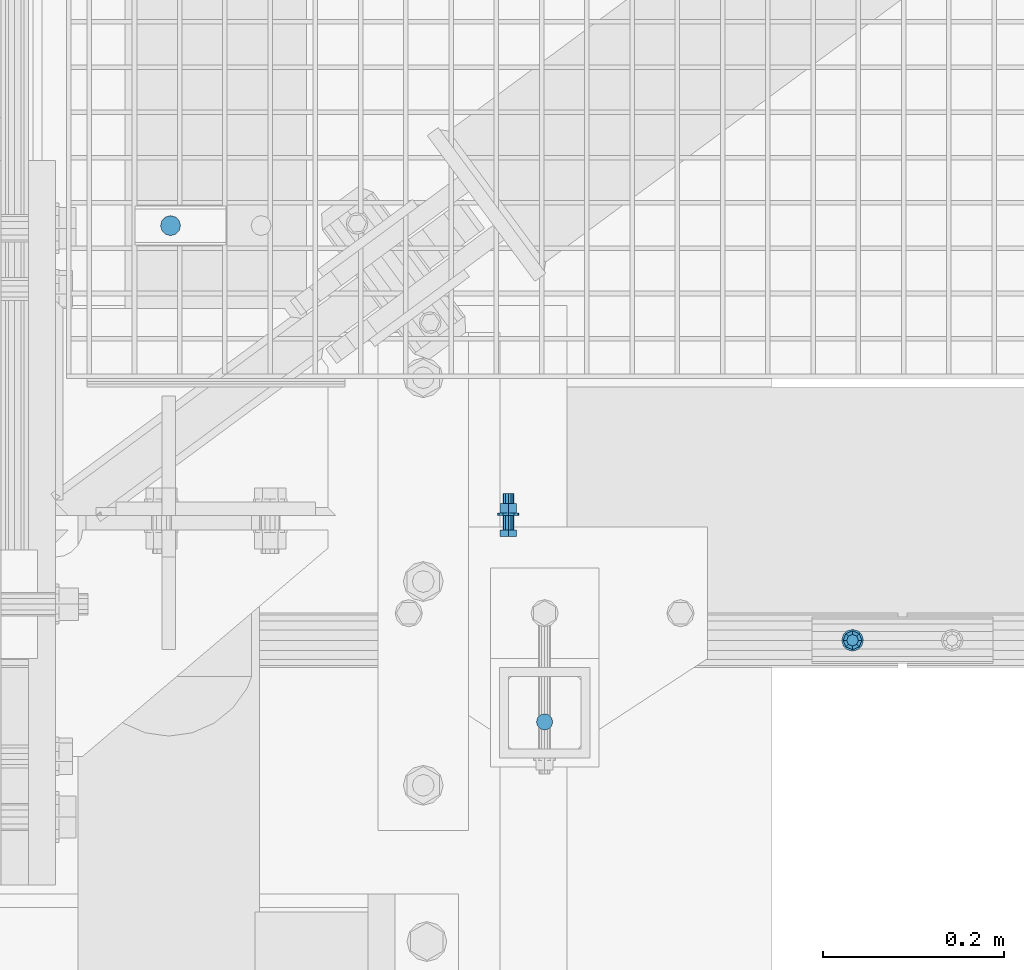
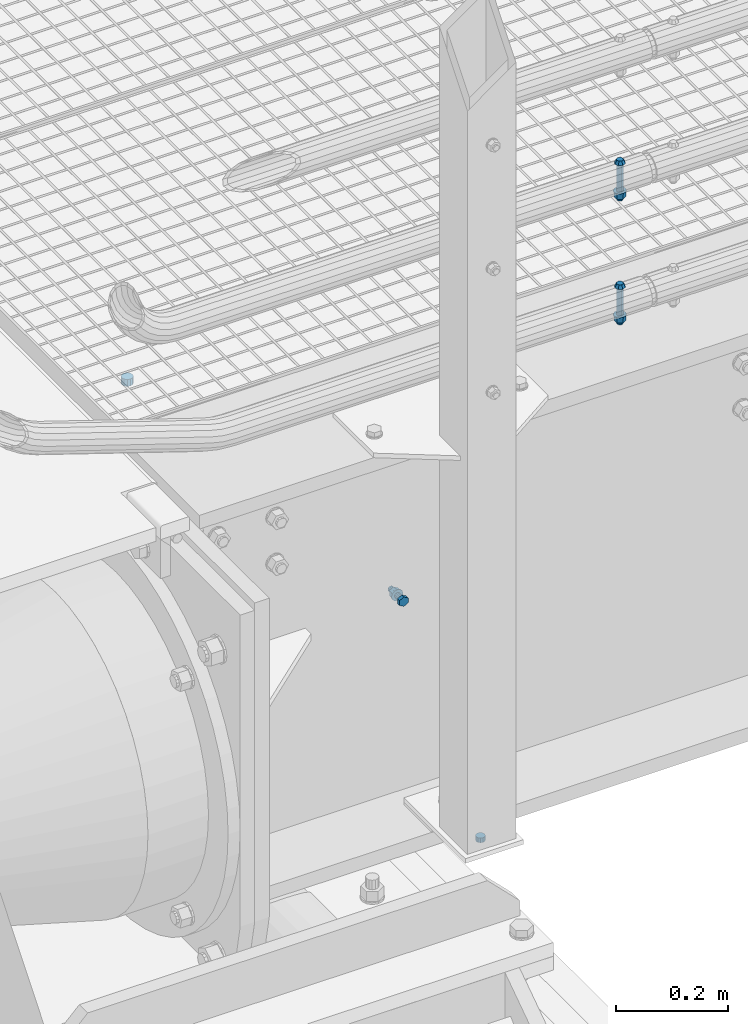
# One storey, part 60 of 1530: 5 mechanical fasteners.
"""IFC2X3 building model written with IfcOpenShell, lengths in millimetres."""

from ifc_helpers import new_model, si_unit, frame, origin_with_axes, place, context, subcontext, project, spatial, faceted_brep, source, transform, mapped, material, type_object, element, save


model = new_model("IFC2X3")

# Units and contexts
model_context = context("Model", 3, precision=1e-05, world=origin_with_axes())
body_context = subcontext(model_context, "Body", "Model", "MODEL_VIEW")
ifc_project = project(units=[si_unit("LENGTHUNIT", "METRE", prefix="MILLI"), si_unit("AREAUNIT", "SQUARE_METRE"), si_unit("VOLUMEUNIT", "CUBIC_METRE"), si_unit("MASSUNIT", "GRAM", prefix="KILO"), si_unit("TIMEUNIT", "SECOND"), si_unit("PLANEANGLEUNIT", "RADIAN"), si_unit("SOLIDANGLEUNIT", "STERADIAN"), si_unit("THERMODYNAMICTEMPERATUREUNIT", "DEGREE_CELSIUS"), si_unit("LUMINOUSINTENSITYUNIT", "LUMEN")], contexts=[model_context])

# Site, building, storey
site_placement = place(None, origin_with_axes())
site = spatial("IfcSite", under=ifc_project, at=site_placement, Name="Brattvåg", CompositionType="ELEMENT")
building_placement = place(site_placement, origin_with_axes())
building = spatial("IfcBuilding", under=site, at=building_placement, Name="Undefined", CompositionType="ELEMENT")
storey_placement = place(building_placement, origin_with_axes())
storey = spatial("IfcBuildingStorey", under=building, at=storey_placement, Name="Undefined", CompositionType="ELEMENT", Elevation=0.0)

# Mechanical fasteners
ifc_material = material(Name="8")
mechanical_fastener_type = type_object("IfcMechanicalFastenerType", Name="Bolt assembly")
shared_shape_1 = source(origin_with_axes(), body_context, "Body", "Brep", [
    faceted_brep([(10.3923048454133, -7.49999965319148, 0.0), (5.19615242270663, -7.49999965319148, 9.0), (-5.19615242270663, -7.49999965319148, 9.0), (-10.3923048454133, -7.49999965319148, 1.27269028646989e-15), (-5.19615242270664, -7.49999965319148, -9.0), (5.19615242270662, -7.49999965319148, -9.0), (5.19615242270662, 3.46808519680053e-07, -9.0), (-5.19615242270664, 3.46808519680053e-07, -9.0), (-10.3923048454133, 3.46808519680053e-07, 1.27269028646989e-15), (-5.19615242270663, 3.46808519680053e-07, 9.0), (5.19615242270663, 3.46808519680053e-07, 9.0), (10.3923048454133, 3.46808519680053e-07, 0.0), (6.0, 3.46808519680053e-07, 0.0), (5.19615242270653, 3.46808519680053e-07, 3.00000000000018), (2.99999999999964, 3.46808519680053e-07, 5.19615242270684), (-6.21801588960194e-13, 3.46808519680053e-07, 6.0), (-3.00000000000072, 3.46808519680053e-07, 5.19615242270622), (-5.19615242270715, 3.46808519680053e-07, 2.9999999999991), (-6.0, 3.46808519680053e-07, -1.24360317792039e-12), (-5.19615242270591, 3.46808519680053e-07, -3.00000000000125), (-2.99999999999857, 3.46808519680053e-07, -5.19615242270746), (1.85874342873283e-12, 3.46808519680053e-07, -6.0), (3.00000000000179, 3.46808519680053e-07, -5.1961524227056), (5.19615242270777, 3.46808519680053e-07, -2.99999999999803), (5.19615242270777, 40.0000003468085, -2.99999999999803), (3.00000000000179, 40.0000003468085, -5.1961524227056), (1.85874342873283e-12, 40.0000003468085, -6.0), (-2.99999999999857, 40.0000003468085, -5.19615242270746), (-5.19615242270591, 40.0000003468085, -3.00000000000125), (-6.0, 40.0000003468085, -1.24360317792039e-12), (-5.19615242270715, 40.0000003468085, 2.9999999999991), (-3.00000000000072, 40.0000003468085, 5.19615242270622), (-6.21801588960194e-13, 40.0000003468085, 6.0), (2.99999999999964, 40.0000003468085, 5.19615242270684), (5.19615242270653, 40.0000003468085, 3.00000000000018), (6.0, 40.0000003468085, 0.0), (12.0, 16.0000003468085, 0.0), (10.3923048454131, 16.0000003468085, 6.00000000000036), (5.99999999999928, 16.0000003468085, 10.3923048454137), (-1.24360317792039e-12, 16.0000003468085, 12.0), (-6.00000000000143, 16.0000003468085, 10.3923048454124), (-10.3923048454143, 16.0000003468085, 5.99999999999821), (-12.0, 16.0000003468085, -2.48720635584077e-12), (-10.3923048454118, 16.0000003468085, -6.00000000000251), (-5.99999999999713, 16.0000003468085, -10.3923048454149), (3.71748685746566e-12, 16.0000003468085, -12.0), (6.00000000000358, 16.0000003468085, -10.3923048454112), (10.3923048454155, 16.0000003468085, -5.99999999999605), (10.3923048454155, 18.5000003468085, -5.99999999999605), (6.00000000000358, 18.5000003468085, -10.3923048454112), (3.71748685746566e-12, 18.5000003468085, -12.0), (-5.99999999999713, 18.5000003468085, -10.3923048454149), (-10.3923048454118, 18.5000003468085, -6.00000000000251), (-12.0, 18.5000003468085, -2.48720635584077e-12), (-10.3923048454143, 18.5000003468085, 5.99999999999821), (-6.00000000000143, 18.5000003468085, 10.3923048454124), (-1.24360317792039e-12, 18.5000003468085, 12.0), (5.99999999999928, 18.5000003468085, 10.3923048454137), (10.3923048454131, 18.5000003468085, 6.00000000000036), (12.0, 18.5000003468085, 0.0), (10.3923048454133, 18.5000003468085, 0.0), (5.19615242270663, 18.5000003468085, 9.0), (-5.19615242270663, 18.5000003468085, 9.0), (-10.3923048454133, 18.5000003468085, 1.27269028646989e-15), (-5.19615242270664, 18.5000003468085, -9.0), (5.19615242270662, 18.5000003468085, -9.0), (5.19615242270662, 29.3000005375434, -9.0), (-5.19615242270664, 29.3000005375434, -9.0), (-10.3923048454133, 29.3000005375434, 1.27269028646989e-15), (-5.19615242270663, 29.3000005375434, 9.0), (5.19615242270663, 29.3000005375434, 9.0), (10.3923048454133, 29.3000005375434, 0.0)], [[[0, 1, 2, 3, 4, 5]], [[6, 7, 8, 9, 10, 11]], [[0, 11, 10, 1]], [[1, 10, 9, 2]], [[2, 9, 8, 3]], [[3, 8, 7, 4]], [[4, 7, 6, 5]], [[5, 6, 11, 0]], [[12, 13, 14, 15, 16, 17, 18, 19, 20, 21, 22, 23]], [[24, 25, 26, 27, 28, 29, 30, 31, 32, 33, 34, 35]], [[12, 35, 34, 13]], [[13, 34, 33, 14]], [[14, 33, 32, 15]], [[15, 32, 31, 16]], [[16, 31, 30, 17]], [[17, 30, 29, 18]], [[18, 29, 28, 19]], [[19, 28, 27, 20]], [[20, 27, 26, 21]], [[21, 26, 25, 22]], [[22, 25, 24, 23]], [[23, 24, 35, 12]], [[36, 37, 38, 39, 40, 41, 42, 43, 44, 45, 46, 47]], [[48, 49, 50, 51, 52, 53, 54, 55, 56, 57, 58, 59]], [[36, 59, 58, 37]], [[37, 58, 57, 38]], [[38, 57, 56, 39]], [[39, 56, 55, 40]], [[40, 55, 54, 41]], [[41, 54, 53, 42]], [[42, 53, 52, 43]], [[43, 52, 51, 44]], [[44, 51, 50, 45]], [[45, 50, 49, 46]], [[46, 49, 48, 47]], [[47, 48, 59, 36]], [[60, 61, 62, 63, 64, 65]], [[66, 67, 68, 69, 70, 71]], [[60, 71, 70, 61]], [[61, 70, 69, 62]], [[62, 69, 68, 63]], [[63, 68, 67, 64]], [[64, 67, 66, 65]], [[65, 66, 71, 60]]]),
    faceted_brep([(6.0, 3.46808519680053e-07, 0.0), (5.19615242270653, 3.46808519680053e-07, 3.00000000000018), (2.99999999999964, 3.46808519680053e-07, 5.19615242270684), (-6.21801588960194e-13, 3.46808519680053e-07, 6.0), (-3.00000000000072, 3.46808519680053e-07, 5.19615242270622), (-5.19615242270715, 3.46808519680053e-07, 2.9999999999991), (-6.0, 3.46808519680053e-07, -1.24360317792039e-12), (-5.19615242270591, 3.46808519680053e-07, -3.00000000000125), (-2.99999999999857, 3.46808519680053e-07, -5.19615242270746), (1.85874342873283e-12, 3.46808519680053e-07, -6.0), (3.00000000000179, 3.46808519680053e-07, -5.1961524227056), (5.19615242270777, 3.46808519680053e-07, -2.99999999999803), (5.19615242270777, 16.1000003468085, -2.99999999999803), (3.00000000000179, 16.1000003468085, -5.1961524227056), (1.85874342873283e-12, 16.1000003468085, -6.0), (-2.99999999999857, 16.1000003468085, -5.19615242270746), (-5.19615242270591, 16.1000003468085, -3.00000000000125), (-6.0, 16.1000003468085, -1.24360317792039e-12), (-5.19615242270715, 16.1000003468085, 2.9999999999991), (-3.00000000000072, 16.1000003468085, 5.19615242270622), (-6.21801588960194e-13, 16.1000003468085, 6.0), (2.99999999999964, 16.1000003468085, 5.19615242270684), (5.19615242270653, 16.1000003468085, 3.00000000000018), (6.0, 16.1000003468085, 0.0)], [[[0, 1, 2, 3, 4, 5, 6, 7, 8, 9, 10, 11]], [[12, 13, 14, 15, 16, 17, 18, 19, 20, 21, 22, 23]], [[0, 23, 22, 1]], [[1, 22, 21, 2]], [[2, 21, 20, 3]], [[3, 20, 19, 4]], [[4, 19, 18, 5]], [[5, 18, 17, 6]], [[6, 17, 16, 7]], [[7, 16, 15, 8]], [[8, 15, 14, 9]], [[9, 14, 13, 10]], [[10, 13, 12, 11]], [[11, 12, 23, 0]]]),
])
mechanical_fastener_1_placement = place(storey_placement, frame((510.0, -8.00000034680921, -445.0), z_axis=(-1.0, 1.99999855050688e-09, 0.0), x_axis=(0.0, 0.0, 1.0)))
element("IfcMechanicalFastener", 1, at=mechanical_fastener_1_placement, inside=storey, type_object=mechanical_fastener_type, material=ifc_material, Name="Bolt assembly", NominalDiameter=12.0, NominalLength=40.0, context=body_context, shape_type="MappedRepresentation", body=[
    mapped(shared_shape_1, transform((0.0, 0.0, 0.0))),
])
shared_shape_2 = source(origin_with_axes(), body_context, "Body", "Brep", [
    faceted_brep([(11.0, -4.99999999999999, 0.0), (9.52627944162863, -4.99999999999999, 5.50000000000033), (5.49999999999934, -4.99999999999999, 9.5262794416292), (-1.13996957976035e-12, -4.99999999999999, 11.0), (-5.50000000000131, -4.99999999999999, 9.52627944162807), (-9.52627944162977, -4.99999999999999, 5.49999999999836), (-11.0, -4.99999999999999, -2.27993915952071e-12), (-9.5262794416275, -4.99999999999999, -5.5000000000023), (-5.49999999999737, -4.99999999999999, -9.52627944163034), (3.40769628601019e-12, -4.99999999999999, -11.0), (5.50000000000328, -4.99999999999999, -9.52627944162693), (9.52627944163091, -4.99999999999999, -5.49999999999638), (9.52627944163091, 10.1, -5.49999999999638), (5.50000000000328, 10.1, -9.52627944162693), (3.40769628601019e-12, 10.1, -11.0), (-5.49999999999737, 10.1, -9.52627944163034), (-9.5262794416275, 10.1, -5.5000000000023), (-11.0, 10.1, -2.27993915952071e-12), (-9.52627944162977, 10.1, 5.49999999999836), (-5.50000000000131, 10.1, 9.52627944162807), (-1.13996957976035e-12, 10.1, 11.0), (5.49999999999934, 10.1, 9.5262794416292), (9.52627944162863, 10.1, 5.50000000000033), (11.0, 10.1, 0.0)], [[[0, 1, 2, 3, 4, 5, 6, 7, 8, 9, 10, 11]], [[12, 13, 14, 15, 16, 17, 18, 19, 20, 21, 22, 23]], [[0, 23, 22, 1]], [[1, 22, 21, 2]], [[2, 21, 20, 3]], [[3, 20, 19, 4]], [[4, 19, 18, 5]], [[5, 18, 17, 6]], [[6, 17, 16, 7]], [[7, 16, 15, 8]], [[8, 15, 14, 9]], [[9, 14, 13, 10]], [[10, 13, 12, 11]], [[11, 12, 23, 0]]]),
])
mechanical_fastener_2_placement = place(storey_placement, frame((137.004779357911, 327.919311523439, -35.0), z_axis=(0.0, 1.0, 0.0), x_axis=(1.0, 0.0, 0.0)))
element("IfcMechanicalFastener", 2, at=mechanical_fastener_2_placement, inside=storey, type_object=mechanical_fastener_type, material=ifc_material, Name="Bolt assembly", NominalDiameter=20.0, NominalLength=15.0, context=body_context, shape_type="MappedRepresentation", body=[
    mapped(shared_shape_2, transform((0.0, 0.0, 0.0))),
])
shared_shape_3 = source(origin_with_axes(), body_context, "Body", "Brep", [
    faceted_brep([(9.0, -0.000108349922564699, 0.0), (7.79422863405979, -0.000108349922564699, 4.50000000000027), (4.49999999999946, -0.000108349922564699, 7.79422863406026), (-9.3270238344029e-13, -0.000108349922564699, 9.0), (-4.50000000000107, -0.000108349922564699, 7.79422863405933), (-7.79422863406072, -0.000108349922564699, 4.49999999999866), (-9.0, -0.000108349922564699, -1.86540476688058e-12), (-7.79422863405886, -0.000108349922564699, -4.50000000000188), (-4.49999999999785, -0.000108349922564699, -7.79422863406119), (2.78811514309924e-12, -0.000108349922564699, -9.0), (4.50000000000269, -0.000108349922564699, -7.7942286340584), (7.79422863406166, -0.000108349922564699, -4.49999999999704), (7.79422863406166, 10.0998916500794, -4.49999999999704), (4.50000000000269, 10.0998916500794, -7.7942286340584), (2.78811514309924e-12, 10.0998916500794, -9.0), (-4.49999999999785, 10.0998916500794, -7.79422863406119), (-7.79422863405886, 10.0998916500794, -4.50000000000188), (-9.0, 10.0998916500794, -1.86540476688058e-12), (-7.79422863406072, 10.0998916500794, 4.49999999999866), (-4.50000000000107, 10.0998916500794, 7.79422863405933), (-9.3270238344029e-13, 10.0998916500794, 9.0), (4.49999999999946, 10.0998916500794, 7.79422863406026), (7.79422863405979, 10.0998916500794, 4.50000000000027), (9.0, 10.0998916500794, 0.0)], [[[0, 1, 2, 3, 4, 5, 6, 7, 8, 9, 10, 11]], [[12, 13, 14, 15, 16, 17, 18, 19, 20, 21, 22, 23]], [[0, 23, 22, 1]], [[1, 22, 21, 2]], [[2, 21, 20, 3]], [[3, 20, 19, 4]], [[4, 19, 18, 5]], [[5, 18, 17, 6]], [[6, 17, 16, 7]], [[7, 16, 15, 8]], [[8, 15, 14, 9]], [[9, 14, 13, 10]], [[10, 13, 12, 11]], [[11, 12, 23, 0]]]),
])
mechanical_fastener_3_placement = place(storey_placement, frame((550.000160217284, -219.999950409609, -845.0002784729), z_axis=(-1.0, 1.99999855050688e-09, 0.0), x_axis=(0.0, 0.999999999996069, 2.80400000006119e-06)))
element("IfcMechanicalFastener", 3, at=mechanical_fastener_3_placement, inside=storey, type_object=mechanical_fastener_type, material=ifc_material, Name="Bolt assembly", NominalDiameter=16.0, NominalLength=10.0001087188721, context=body_context, shape_type="MappedRepresentation", body=[
    mapped(shared_shape_3, transform((0.0, 0.0, 0.0))),
])
shared_shape_4 = source(origin_with_axes(), body_context, "Body", "Brep", [
    faceted_brep([(6.49435320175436, -7.79994685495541, 0.0), (4.59220118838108, -7.79994685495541, 4.59220118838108), (3.97664443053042e-16, -7.79994685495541, 6.49435320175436), (-4.59220118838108, -7.79994685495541, 4.59220118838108), (-6.49435320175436, -7.79994685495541, 7.95328886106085e-16), (-4.59220118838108, -7.79994685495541, -4.59220118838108), (-1.19299332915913e-15, -7.79994685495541, -6.49435320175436), (4.59220118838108, -7.79994685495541, -4.59220118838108), (7.34846922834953, -0.299946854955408, -7.34846922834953), (-1.90903542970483e-15, -0.299946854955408, -10.3923048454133), (-7.34846922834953, -0.299946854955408, -7.34846922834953), (-10.3923048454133, -0.299946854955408, 1.27269028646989e-15), (-7.34846922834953, -0.299946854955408, 7.34846922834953), (6.36345143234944e-16, -0.299946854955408, 10.3923048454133), (7.34846922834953, -0.299946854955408, 7.34846922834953), (10.3923048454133, -0.299946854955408, 0.0), (6.0, -0.299946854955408, 0.0), (5.19615242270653, -0.299946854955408, 3.00000000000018), (2.99999999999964, -0.299946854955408, 5.19615242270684), (-6.21801588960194e-13, -0.299946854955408, 6.0), (-3.00000000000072, -0.299946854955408, 5.19615242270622), (-5.19615242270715, -0.299946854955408, 2.9999999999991), (-6.0, -0.299946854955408, -1.24360317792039e-12), (-5.19615242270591, -0.299946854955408, -3.00000000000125), (-2.99999999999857, -0.299946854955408, -5.19615242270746), (1.85874342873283e-12, -0.299946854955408, -6.0), (3.00000000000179, -0.299946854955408, -5.1961524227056), (5.19615242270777, -0.299946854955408, -2.99999999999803), (5.19615242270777, 79.7000531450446, -2.99999999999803), (3.00000000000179, 79.7000531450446, -5.1961524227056), (1.85874342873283e-12, 79.7000531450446, -6.0), (-2.99999999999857, 79.7000531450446, -5.19615242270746), (-5.19615242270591, 79.7000531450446, -3.00000000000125), (-6.0, 79.7000531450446, -1.24360317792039e-12), (-5.19615242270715, 79.7000531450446, 2.9999999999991), (-3.00000000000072, 79.7000531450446, 5.19615242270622), (-6.21801588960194e-13, 79.7000531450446, 6.0), (2.99999999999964, 79.7000531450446, 5.19615242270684), (5.19615242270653, 79.7000531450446, 3.00000000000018), (6.0, 79.7000531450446, 0.0), (12.0, 59.9989488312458, 0.0), (10.3923048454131, 59.9989488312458, 6.00000000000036), (5.99999999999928, 59.9989488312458, 10.3923048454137), (-1.24360317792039e-12, 59.9989488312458, 12.0), (-6.00000000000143, 59.9989488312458, 10.3923048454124), (-10.3923048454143, 59.9989488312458, 5.99999999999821), (-12.0, 59.9989488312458, -2.48720635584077e-12), (-10.3923048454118, 59.9989488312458, -6.00000000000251), (-5.99999999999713, 59.9989488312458, -10.3923048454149), (3.71748685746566e-12, 59.9989488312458, -12.0), (6.00000000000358, 59.9989488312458, -10.3923048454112), (10.3923048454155, 59.9989488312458, -5.99999999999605), (10.3923048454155, 62.4989488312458, -5.99999999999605), (6.00000000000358, 62.4989488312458, -10.3923048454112), (3.71748685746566e-12, 62.4989488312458, -12.0), (-5.99999999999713, 62.4989488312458, -10.3923048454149), (-10.3923048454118, 62.4989488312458, -6.00000000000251), (-12.0, 62.4989488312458, -2.48720635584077e-12), (-10.3923048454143, 62.4989488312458, 5.99999999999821), (-6.00000000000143, 62.4989488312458, 10.3923048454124), (-1.24360317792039e-12, 62.4989488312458, 12.0), (5.99999999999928, 62.4989488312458, 10.3923048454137), (10.3923048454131, 62.4989488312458, 6.00000000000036), (12.0, 62.4989488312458, 0.0), (10.9696551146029, 62.4989488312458, 0.0), (5.48482755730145, 62.4989488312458, 9.5), (-5.48482755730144, 62.4989488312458, 9.5), (-10.9696551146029, 62.4989488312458, 1.34339530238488e-15), (-5.48482755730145, 62.4989488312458, -9.5), (5.48482755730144, 62.4989488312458, -9.5), (5.48482755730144, 73.2989490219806, -9.5), (-5.48482755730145, 73.2989490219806, -9.5), (-10.9696551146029, 73.2989490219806, 1.34339530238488e-15), (-5.48482755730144, 73.2989490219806, 9.5), (5.48482755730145, 73.2989490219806, 9.5), (10.9696551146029, 73.2989490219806, 0.0)], [[[0, 1, 2, 3, 4, 5, 6, 7]], [[8, 9, 10, 11, 12, 13, 14, 15]], [[0, 15, 14, 1]], [[1, 14, 13, 2]], [[2, 13, 12, 3]], [[3, 12, 11, 4]], [[4, 11, 10, 5]], [[5, 10, 9, 6]], [[6, 9, 8, 7]], [[7, 8, 15, 0]], [[16, 17, 18, 19, 20, 21, 22, 23, 24, 25, 26, 27]], [[28, 29, 30, 31, 32, 33, 34, 35, 36, 37, 38, 39]], [[16, 39, 38, 17]], [[17, 38, 37, 18]], [[18, 37, 36, 19]], [[19, 36, 35, 20]], [[20, 35, 34, 21]], [[21, 34, 33, 22]], [[22, 33, 32, 23]], [[23, 32, 31, 24]], [[24, 31, 30, 25]], [[25, 30, 29, 26]], [[26, 29, 28, 27]], [[27, 28, 39, 16]], [[40, 41, 42, 43, 44, 45, 46, 47, 48, 49, 50, 51]], [[52, 53, 54, 55, 56, 57, 58, 59, 60, 61, 62, 63]], [[40, 63, 62, 41]], [[41, 62, 61, 42]], [[42, 61, 60, 43]], [[43, 60, 59, 44]], [[44, 59, 58, 45]], [[45, 58, 57, 46]], [[46, 57, 56, 47]], [[47, 56, 55, 48]], [[48, 55, 54, 49]], [[49, 54, 53, 50]], [[50, 53, 52, 51]], [[51, 52, 63, 40]], [[64, 65, 66, 67, 68, 69]], [[70, 71, 72, 73, 74, 75]], [[64, 75, 74, 65]], [[65, 74, 73, 66]], [[66, 73, 72, 67]], [[67, 72, 71, 68]], [[68, 71, 70, 69]], [[69, 70, 75, 64]]]),
    faceted_brep([(6.5, -0.199946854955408, 0.0), (5.62916512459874, -0.199946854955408, 3.25000000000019), (3.24999999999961, -0.199946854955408, 5.62916512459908), (-6.7361838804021e-13, -0.199946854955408, 6.5), (-3.25000000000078, -0.199946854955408, 5.6291651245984), (-5.62916512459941, -0.199946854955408, 3.24999999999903), (-6.5, -0.199946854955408, -1.34723677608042e-12), (-5.62916512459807, -0.199946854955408, -3.25000000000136), (-3.24999999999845, -0.199946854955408, -5.62916512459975), (2.01363871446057e-12, -0.199946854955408, -6.5), (3.25000000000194, -0.199946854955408, -5.62916512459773), (5.62916512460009, -0.199946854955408, -3.24999999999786), (5.62916512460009, 60.0989488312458, -3.24999999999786), (3.25000000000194, 60.0989488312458, -5.62916512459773), (2.01363871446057e-12, 60.0989488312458, -6.5), (-3.24999999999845, 60.0989488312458, -5.62916512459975), (-5.62916512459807, 60.0989488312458, -3.25000000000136), (-6.5, 60.0989488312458, -1.34723677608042e-12), (-5.62916512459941, 60.0989488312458, 3.24999999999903), (-3.25000000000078, 60.0989488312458, 5.6291651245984), (-6.7361838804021e-13, 60.0989488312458, 6.5), (3.24999999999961, 60.0989488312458, 5.62916512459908), (5.62916512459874, 60.0989488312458, 3.25000000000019), (6.5, 60.0989488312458, 0.0), (6.5, 4.25026510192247, 0.0), (5.62916512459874, 4.25026510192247, 3.25000000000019), (3.24999999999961, 4.25026510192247, 5.62916512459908), (-6.7361838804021e-13, 4.25026510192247, 6.5), (-3.25000000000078, 4.25026510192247, 5.6291651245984), (-5.62916512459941, 4.25026510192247, 3.24999999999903), (-6.5, 4.25026510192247, -1.34723677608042e-12), (-5.62916512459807, 4.25026510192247, -3.25000000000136), (-3.24999999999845, 4.25026510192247, -5.62916512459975), (2.01363871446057e-12, 4.25026510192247, -6.5), (3.25000000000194, 4.25026510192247, -5.62916512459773), (5.62916512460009, 4.25026510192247, -3.24999999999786), (5.62916512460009, 55.3491717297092, -3.24999999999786), (3.25000000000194, 55.3491717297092, -5.62916512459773), (2.01363871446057e-12, 55.3491717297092, -6.5), (-3.24999999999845, 55.3491717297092, -5.62916512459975), (-5.62916512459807, 55.3491717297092, -3.25000000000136), (-6.5, 55.3491717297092, -1.34723677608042e-12), (-5.62916512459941, 55.3491717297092, 3.24999999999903), (-3.25000000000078, 55.3491717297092, 5.6291651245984), (-6.7361838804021e-13, 55.3491717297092, 6.5), (3.24999999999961, 55.3491717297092, 5.62916512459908), (5.62916512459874, 55.3491717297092, 3.25000000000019), (6.5, 55.3491717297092, 0.0)], [[[0, 1, 2, 3, 4, 5, 6, 7, 8, 9, 10, 11]], [[12, 13, 14, 15, 16, 17, 18, 19, 20, 21, 22, 23]], [[0, 23, 22, 1]], [[1, 22, 21, 2]], [[2, 21, 20, 3]], [[3, 20, 19, 4]], [[4, 19, 18, 5]], [[5, 18, 17, 6]], [[6, 17, 16, 7]], [[7, 16, 15, 8]], [[8, 15, 14, 9]], [[9, 14, 13, 10]], [[10, 13, 12, 11]], [[11, 12, 23, 0]], [[24, 25, 26, 27, 28, 29, 30, 31, 32, 33, 34, 35]], [[36, 37, 38, 39, 40, 41, 42, 43, 44, 45, 46, 47]], [[24, 47, 46, 25]], [[25, 46, 45, 26]], [[26, 45, 44, 27]], [[27, 44, 43, 28]], [[28, 43, 42, 29]], [[29, 42, 41, 30]], [[30, 41, 40, 31]], [[31, 40, 39, 32]], [[32, 39, 38, 33]], [[33, 38, 37, 34]], [[34, 37, 36, 35]], [[35, 36, 47, 24]]]),
])
mechanical_fastener_4_placement = place(storey_placement, frame((890.000137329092, -129.849880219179, 449.7000579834), z_axis=(-1.0, 1.99999855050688e-09, 0.0), x_axis=(0.0, 0.999999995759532, -9.2091999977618e-05)))
element("IfcMechanicalFastener", 4, at=mechanical_fastener_4_placement, inside=storey, type_object=mechanical_fastener_type, material=ifc_material, Name="Bolt assembly", NominalDiameter=12.0, NominalLength=80.0, context=body_context, shape_type="MappedRepresentation", body=[
    mapped(shared_shape_4, transform((0.0, 0.0, 0.0))),
])
shared_shape_5 = source(origin_with_axes(), body_context, "Body", "Brep", [
    faceted_brep([(6.49435320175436, -7.49993057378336, 0.0), (4.59220118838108, -7.49993057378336, 4.59220118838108), (3.97664443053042e-16, -7.49993057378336, 6.49435320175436), (-4.59220118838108, -7.49993057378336, 4.59220118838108), (-6.49435320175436, -7.49993057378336, 7.95328886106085e-16), (-4.59220118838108, -7.49993057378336, -4.59220118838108), (-1.19299332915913e-15, -7.49993057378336, -6.49435320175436), (4.59220118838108, -7.49993057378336, -4.59220118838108), (7.34846922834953, 6.94262166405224e-05, -7.34846922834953), (-1.90903542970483e-15, 6.94262166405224e-05, -10.3923048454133), (-7.34846922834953, 6.94262166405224e-05, -7.34846922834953), (-10.3923048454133, 6.94262166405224e-05, 1.27269028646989e-15), (-7.34846922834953, 6.94262166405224e-05, 7.34846922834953), (6.36345143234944e-16, 6.94262166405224e-05, 10.3923048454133), (7.34846922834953, 6.94262166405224e-05, 7.34846922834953), (10.3923048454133, 6.94262166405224e-05, 0.0), (6.0, 6.94262166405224e-05, 0.0), (5.19615242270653, 6.94262166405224e-05, 3.00000000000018), (2.99999999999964, 6.94262166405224e-05, 5.19615242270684), (-6.21801588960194e-13, 6.94262166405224e-05, 6.0), (-3.00000000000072, 6.94262166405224e-05, 5.19615242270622), (-5.19615242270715, 6.94262166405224e-05, 2.9999999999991), (-6.0, 6.94262166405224e-05, -1.24360317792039e-12), (-5.19615242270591, 6.94262166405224e-05, -3.00000000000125), (-2.99999999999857, 6.94262166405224e-05, -5.19615242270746), (1.85874342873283e-12, 6.94262166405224e-05, -6.0), (3.00000000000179, 6.94262166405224e-05, -5.1961524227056), (5.19615242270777, 6.94262166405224e-05, -2.99999999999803), (5.19615242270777, 80.0000694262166, -2.99999999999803), (3.00000000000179, 80.0000694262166, -5.1961524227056), (1.85874342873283e-12, 80.0000694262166, -6.0), (-2.99999999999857, 80.0000694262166, -5.19615242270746), (-5.19615242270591, 80.0000694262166, -3.00000000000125), (-6.0, 80.0000694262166, -1.24360317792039e-12), (-5.19615242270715, 80.0000694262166, 2.9999999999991), (-3.00000000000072, 80.0000694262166, 5.19615242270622), (-6.21801588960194e-13, 80.0000694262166, 6.0), (2.99999999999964, 80.0000694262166, 5.19615242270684), (5.19615242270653, 80.0000694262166, 3.00000000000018), (6.0, 80.0000694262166, 0.0), (12.0, 60.2989651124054, 0.0), (10.3923048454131, 60.2989651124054, 6.00000000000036), (5.99999999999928, 60.2989651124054, 10.3923048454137), (-1.24360317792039e-12, 60.2989651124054, 12.0), (-6.00000000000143, 60.2989651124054, 10.3923048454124), (-10.3923048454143, 60.2989651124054, 5.99999999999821), (-12.0, 60.2989651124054, -2.48720635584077e-12), (-10.3923048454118, 60.2989651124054, -6.00000000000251), (-5.99999999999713, 60.2989651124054, -10.3923048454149), (3.71748685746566e-12, 60.2989651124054, -12.0), (6.00000000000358, 60.2989651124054, -10.3923048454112), (10.3923048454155, 60.2989651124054, -5.99999999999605), (10.3923048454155, 62.7989651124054, -5.99999999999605), (6.00000000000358, 62.7989651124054, -10.3923048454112), (3.71748685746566e-12, 62.7989651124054, -12.0), (-5.99999999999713, 62.7989651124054, -10.3923048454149), (-10.3923048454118, 62.7989651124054, -6.00000000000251), (-12.0, 62.7989651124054, -2.48720635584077e-12), (-10.3923048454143, 62.7989651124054, 5.99999999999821), (-6.00000000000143, 62.7989651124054, 10.3923048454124), (-1.24360317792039e-12, 62.7989651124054, 12.0), (5.99999999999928, 62.7989651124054, 10.3923048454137), (10.3923048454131, 62.7989651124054, 6.00000000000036), (12.0, 62.7989651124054, 0.0), (10.9696551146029, 62.7989651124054, 0.0), (5.48482755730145, 62.7989651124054, 9.5), (-5.48482755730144, 62.7989651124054, 9.5), (-10.9696551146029, 62.7989651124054, 1.34339530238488e-15), (-5.48482755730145, 62.7989651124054, -9.5), (5.48482755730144, 62.7989651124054, -9.5), (5.48482755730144, 73.5989653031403, -9.5), (-5.48482755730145, 73.5989653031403, -9.5), (-10.9696551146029, 73.5989653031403, 1.34339530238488e-15), (-5.48482755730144, 73.5989653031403, 9.5), (5.48482755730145, 73.5989653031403, 9.5), (10.9696551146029, 73.5989653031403, 0.0)], [[[0, 1, 2, 3, 4, 5, 6, 7]], [[8, 9, 10, 11, 12, 13, 14, 15]], [[0, 15, 14, 1]], [[1, 14, 13, 2]], [[2, 13, 12, 3]], [[3, 12, 11, 4]], [[4, 11, 10, 5]], [[5, 10, 9, 6]], [[6, 9, 8, 7]], [[7, 8, 15, 0]], [[16, 17, 18, 19, 20, 21, 22, 23, 24, 25, 26, 27]], [[28, 29, 30, 31, 32, 33, 34, 35, 36, 37, 38, 39]], [[16, 39, 38, 17]], [[17, 38, 37, 18]], [[18, 37, 36, 19]], [[19, 36, 35, 20]], [[20, 35, 34, 21]], [[21, 34, 33, 22]], [[22, 33, 32, 23]], [[23, 32, 31, 24]], [[24, 31, 30, 25]], [[25, 30, 29, 26]], [[26, 29, 28, 27]], [[27, 28, 39, 16]], [[40, 41, 42, 43, 44, 45, 46, 47, 48, 49, 50, 51]], [[52, 53, 54, 55, 56, 57, 58, 59, 60, 61, 62, 63]], [[40, 63, 62, 41]], [[41, 62, 61, 42]], [[42, 61, 60, 43]], [[43, 60, 59, 44]], [[44, 59, 58, 45]], [[45, 58, 57, 46]], [[46, 57, 56, 47]], [[47, 56, 55, 48]], [[48, 55, 54, 49]], [[49, 54, 53, 50]], [[50, 53, 52, 51]], [[51, 52, 63, 40]], [[64, 65, 66, 67, 68, 69]], [[70, 71, 72, 73, 74, 75]], [[64, 75, 74, 65]], [[65, 74, 73, 66]], [[66, 73, 72, 67]], [[67, 72, 71, 68]], [[68, 71, 70, 69]], [[69, 70, 75, 64]]]),
    faceted_brep([(6.5, 0.100069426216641, 0.0), (5.62916512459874, 0.100069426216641, 3.25000000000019), (3.24999999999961, 0.100069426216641, 5.62916512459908), (-6.7361838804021e-13, 0.100069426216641, 6.5), (-3.25000000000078, 0.100069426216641, 5.6291651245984), (-5.62916512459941, 0.100069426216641, 3.24999999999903), (-6.5, 0.100069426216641, -1.34723677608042e-12), (-5.62916512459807, 0.100069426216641, -3.25000000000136), (-3.24999999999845, 0.100069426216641, -5.62916512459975), (2.01363871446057e-12, 0.100069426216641, -6.5), (3.25000000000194, 0.100069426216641, -5.62916512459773), (5.62916512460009, 0.100069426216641, -3.24999999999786), (5.62916512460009, 60.3989651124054, -3.24999999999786), (3.25000000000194, 60.3989651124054, -5.62916512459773), (2.01363871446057e-12, 60.3989651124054, -6.5), (-3.24999999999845, 60.3989651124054, -5.62916512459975), (-5.62916512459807, 60.3989651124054, -3.25000000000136), (-6.5, 60.3989651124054, -1.34723677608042e-12), (-5.62916512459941, 60.3989651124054, 3.24999999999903), (-3.25000000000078, 60.3989651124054, 5.6291651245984), (-6.7361838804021e-13, 60.3989651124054, 6.5), (3.24999999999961, 60.3989651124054, 5.62916512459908), (5.62916512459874, 60.3989651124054, 3.25000000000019), (6.5, 60.3989651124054, 0.0), (6.5, 4.25026510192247, 0.0), (5.62916512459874, 4.25026510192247, 3.25000000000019), (3.24999999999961, 4.25026510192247, 5.62916512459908), (-6.7361838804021e-13, 4.25026510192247, 6.5), (-3.25000000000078, 4.25026510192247, 5.6291651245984), (-5.62916512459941, 4.25026510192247, 3.24999999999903), (-6.5, 4.25026510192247, -1.34723677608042e-12), (-5.62916512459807, 4.25026510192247, -3.25000000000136), (-3.24999999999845, 4.25026510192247, -5.62916512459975), (2.01363871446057e-12, 4.25026510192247, -6.5), (3.25000000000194, 4.25026510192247, -5.62916512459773), (5.62916512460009, 4.25026510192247, -3.24999999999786), (5.62916512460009, 55.3491717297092, -3.24999999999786), (3.25000000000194, 55.3491717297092, -5.62916512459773), (2.01363871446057e-12, 55.3491717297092, -6.5), (-3.24999999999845, 55.3491717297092, -5.62916512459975), (-5.62916512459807, 55.3491717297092, -3.25000000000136), (-6.5, 55.3491717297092, -1.34723677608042e-12), (-5.62916512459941, 55.3491717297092, 3.24999999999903), (-3.25000000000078, 55.3491717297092, 5.6291651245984), (-6.7361838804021e-13, 55.3491717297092, 6.5), (3.24999999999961, 55.3491717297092, 5.62916512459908), (5.62916512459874, 55.3491717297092, 3.25000000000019), (6.5, 55.3491717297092, 0.0)], [[[0, 1, 2, 3, 4, 5, 6, 7, 8, 9, 10, 11]], [[12, 13, 14, 15, 16, 17, 18, 19, 20, 21, 22, 23]], [[0, 23, 22, 1]], [[1, 22, 21, 2]], [[2, 21, 20, 3]], [[3, 20, 19, 4]], [[4, 19, 18, 5]], [[5, 18, 17, 6]], [[6, 17, 16, 7]], [[7, 16, 15, 8]], [[8, 15, 14, 9]], [[9, 14, 13, 10]], [[10, 13, 12, 11]], [[11, 12, 23, 0]], [[24, 25, 26, 27, 28, 29, 30, 31, 32, 33, 34, 35]], [[36, 37, 38, 39, 40, 41, 42, 43, 44, 45, 46, 47]], [[24, 47, 46, 25]], [[25, 46, 45, 26]], [[26, 45, 44, 27]], [[27, 44, 43, 28]], [[28, 43, 42, 29]], [[29, 42, 41, 30]], [[30, 41, 40, 31]], [[31, 40, 39, 32]], [[32, 39, 38, 33]], [[33, 38, 37, 34]], [[34, 37, 36, 35]], [[35, 36, 47, 24]]]),
])
mechanical_fastener_5_placement = place(storey_placement, frame((890.000137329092, -129.849880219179, 179.7000579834), z_axis=(-1.0, 1.99999855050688e-09, 0.0), x_axis=(0.0, 0.999999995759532, -9.2091999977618e-05)))
element("IfcMechanicalFastener", 5, at=mechanical_fastener_5_placement, inside=storey, type_object=mechanical_fastener_type, material=ifc_material, Name="Bolt assembly", NominalDiameter=12.0, NominalLength=80.0, context=body_context, shape_type="MappedRepresentation", body=[
    mapped(shared_shape_5, transform((0.0, 0.0, 0.0))),
])

save(model, "model.ifc")
